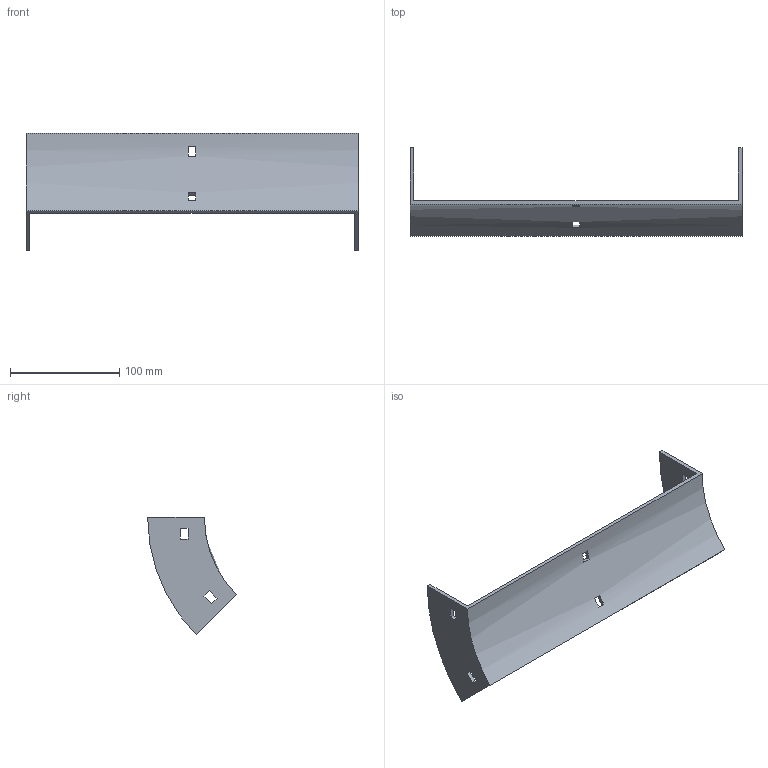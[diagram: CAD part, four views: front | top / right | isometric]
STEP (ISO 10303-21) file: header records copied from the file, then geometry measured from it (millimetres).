
FILE_DESCRIPTION (( 'STEP AP214' ), '1' );
FILE_NAME ('34B1B300.step', '2025-02-21T09:28:26', ( '' ), ( '' ), 'SwSTEP 2.0', 'SolidWorks 2023', '' );
FILE_SCHEMA (( 'AUTOMOTIVE_DESIGN' ));
Length unit declared in the file: millimetre
Products named in the file (1): 34B1B300
Bounding box: 304 x 81.29 x 107.48 mm (x, y, z)
Volume: 117697.2 mm3; surface area: 71584.7 mm2
Topology: 1 solids, 1 shells, 34 faces, 96 edges, 64 vertices
Faces by surface type: plane 30, cylinder 4
Entity records: 1143 total; most frequent: CARTESIAN_POINT 195, ORIENTED_EDGE 192, DIRECTION 182, EDGE_CURVE 96, LINE 80, VECTOR 80, VERTEX_POINT 64, AXIS2_PLACEMENT_3D 51
